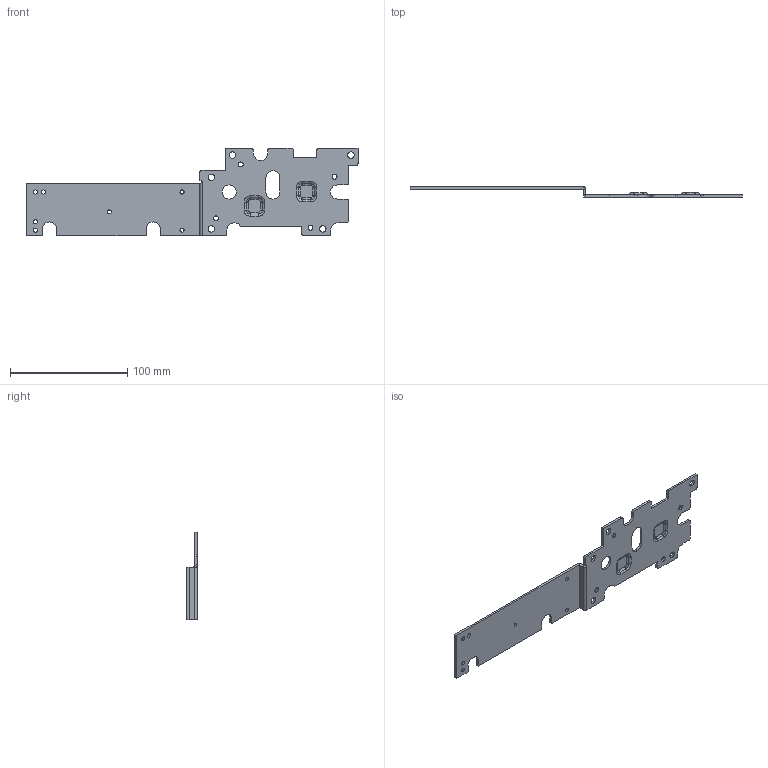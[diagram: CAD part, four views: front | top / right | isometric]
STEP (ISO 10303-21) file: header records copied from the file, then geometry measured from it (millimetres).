
FILE_DESCRIPTION((''),'2;1');
FILE_NAME('HEAT_SPREADER_AMP_BOTTOM_36_1','2020-08-04T',('kym12'),(''),'CREO PARAMETRIC BY PTC INC, 2017170','CREO PARAMETRIC BY PTC INC, 2017170','');
FILE_SCHEMA(('AUTOMOTIVE_DESIGN { 1 0 10303 214 1 1 1 1 }'));
Length unit declared in the file: millimetre
Products named in the file (1): HEAT_SPREADER_AMP_BOTTOM_36_1
Bounding box: 283 x 8.9 x 75 mm (x, y, z)
Volume: 28398.4 mm3; surface area: 30692.8 mm2
Topology: 1 solids, 1 shells, 210 faces, 548 edges, 344 vertices
Faces by surface type: cylinder 100, bspline 57, plane 53
Entity records: 11238 total; most frequent: CARTESIAN_POINT 4659, ORIENTED_EDGE 1096, DIRECTION 868, PRESENTATION_STYLE_ASSIGNMENT 553, STYLED_ITEM 549, CURVE_STYLE 548, EDGE_CURVE 548, VERTEX_POINT 344
